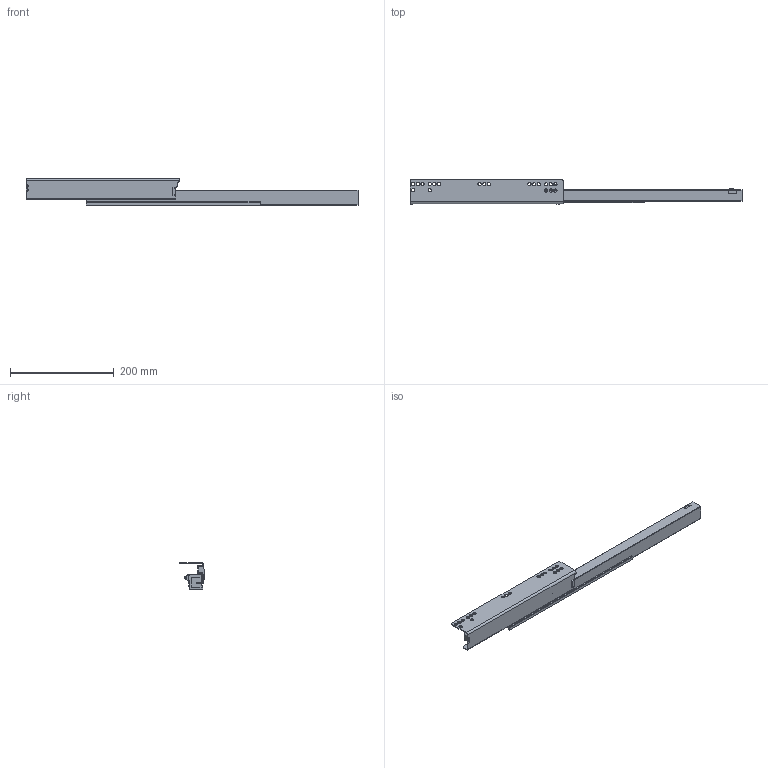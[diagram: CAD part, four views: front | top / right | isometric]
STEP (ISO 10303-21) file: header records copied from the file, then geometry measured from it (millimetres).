
FILE_DESCRIPTION (( 'STEP AP203' ), '1' );
FILE_NAME ('HT104004H-L(´ò¿ª).STEP', '2021-07-31T01:22:47', ( 'Users' ), ( 'Microsoft' ), 'SwSTEP 2.0', 'SolidWorks 2018', '' );
FILE_SCHEMA (( 'CONFIG_CONTROL_DESIGN' ));
Length unit declared in the file: millimetre
Products named in the file (1): HT104004H-L(湖羲)
Bounding box: 639.3 x 47.5 x 51.73 mm (x, y, z)
Volume: 386007.8 mm3; surface area: 111131.7 mm2
Topology: 1 solids, 2 shells, 221 faces, 582 edges, 365 vertices
Faces by surface type: cylinder 97, plane 70, cone 40, torus 12, sphere 2
Entity records: 6981 total; most frequent: DIRECTION 1271, CARTESIAN_POINT 1182, ORIENTED_EDGE 1160, EDGE_CURVE 580, AXIS2_PLACEMENT_3D 474, VERTEX_POINT 365, LINE 323, VECTOR 323
